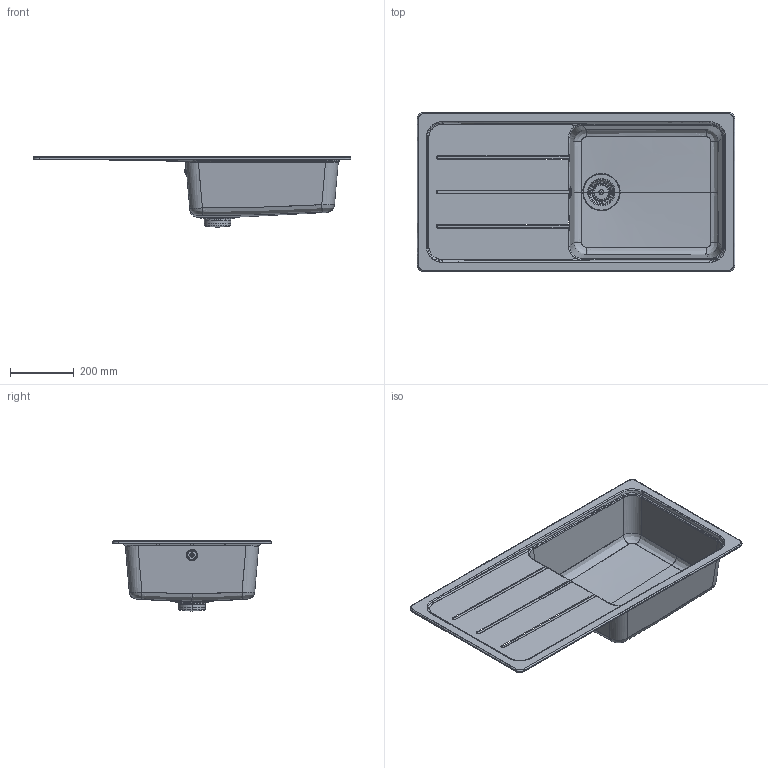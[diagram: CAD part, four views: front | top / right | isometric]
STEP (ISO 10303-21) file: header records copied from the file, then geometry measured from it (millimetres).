
FILE_DESCRIPTION(/* description */ (''),/* implementation_level */ '2;1');
FILE_NAME(/* name */ 'FORD100L',/* time_stamp */ '2014-11-03T16:31:49+01:00',/* author */ (''),/* organization */ (''),/* preprocessor_version */ 'ST-DEVELOPER v15',/* originating_system */ '',/* authorisation */ '');
FILE_SCHEMA (('AUTOMOTIVE_DESIGN'));
Length unit declared in the file: millimetre
Products named in the file (1): Document
Bounding box: 1000 x 500 x 221.43 mm (x, y, z)
Volume: 31105.3 mm3; surface area: 773090 mm2
Topology: 3 solids, 211 shells, 389 faces, 1382 edges, 1159 vertices
Faces by surface type: bspline 346, plane 43
Entity records: 62672 total; most frequent: CARTESIAN_POINT 55018, ORIENTED_EDGE 1969, EDGE_CURVE 1373, VERTEX_POINT 1160, B_SPLINE_CURVE_WITH_KNOTS 1020, EDGE_LOOP 477, ADVANCED_FACE 389, FACE_OUTER_BOUND 389
